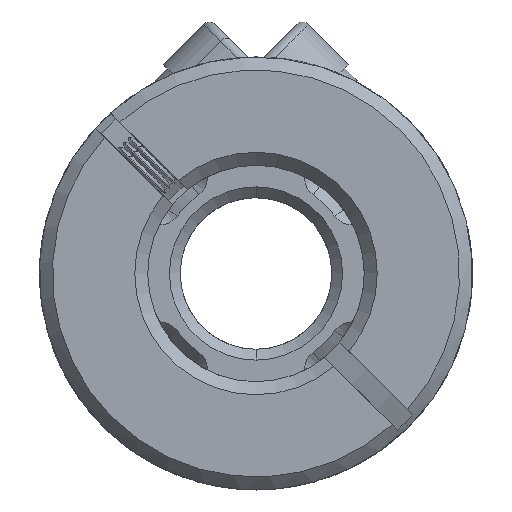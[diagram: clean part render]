
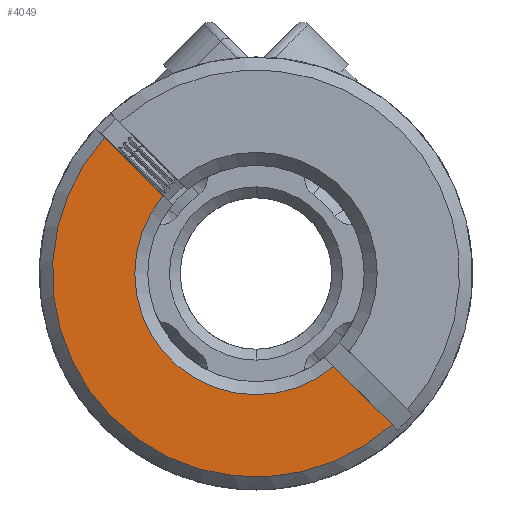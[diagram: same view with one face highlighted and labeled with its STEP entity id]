
A CAD part, front view. The second image highlights one B-rep face of the part: STEP entity #4049.
In plain terms, the highlighted planar face has unit normal (0, -1, 0).
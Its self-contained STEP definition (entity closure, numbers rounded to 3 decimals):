
#285 = ORIENTED_EDGE ( 'NONE', *, *, #12661, .T. ) ;
#709 = CARTESIAN_POINT ( 'NONE',  ( 3.59, -11.2, -4.298 ) ) ;
#901 = CARTESIAN_POINT ( 'NONE',  ( -6.991, -11.2, 6.284 ) ) ;
#1043 = CARTESIAN_POINT ( 'NONE',  ( -8.839, -11.2, 8.132 ) ) ;
#1045 = DIRECTION ( 'NONE',  ( 0., 1., 0. ) ) ;
#1263 = CIRCLE ( 'NONE', #5976, 5.6 ) ;
#1700 = AXIS2_PLACEMENT_3D ( 'NONE', #4425, #6601, #2031 ) ;
#1772 = DIRECTION ( 'NONE',  ( -0.707, 0., 0.707 ) ) ;
#1814 = CARTESIAN_POINT ( 'NONE',  ( -4.298, -11.2, 3.59 ) ) ;
#2031 = DIRECTION ( 'NONE',  ( -0.707, 0., 0.707 ) ) ;
#2158 = ORIENTED_EDGE ( 'NONE', *, *, #14307, .T. ) ;
#3591 = EDGE_CURVE ( 'NONE', #14997, #14185, #8672, .T. ) ;
#4049 = ADVANCED_FACE ( 'NONE', ( #10983 ), #6743, .T. ) ;
#4425 = CARTESIAN_POINT ( 'NONE',  ( 45.083, -11.2, 25.627 ) ) ;
#4459 = DIRECTION ( 'NONE',  ( 0., -1., 0. ) ) ;
#4472 = ORIENTED_EDGE ( 'NONE', *, *, #3591, .T. ) ;
#4736 = CIRCLE ( 'NONE', #6882, 9.4 ) ;
#4803 = LINE ( 'NONE', #12143, #14383 ) ;
#5976 = AXIS2_PLACEMENT_3D ( 'NONE', #7969, #1045, #10286 ) ;
#6601 = DIRECTION ( 'NONE',  ( 0., -1., 0. ) ) ;
#6743 = PLANE ( 'NONE',  #1700 ) ;
#6826 = DIRECTION ( 'NONE',  ( -0.707, 0., 0.707 ) ) ;
#6882 = AXIS2_PLACEMENT_3D ( 'NONE', #11363, #4459, #6826 ) ;
#7119 = VERTEX_POINT ( 'NONE', #1814 ) ;
#7193 = VECTOR ( 'NONE', #10437, 1000. ) ;
#7969 = CARTESIAN_POINT ( 'NONE',  ( 0., -11.2, 0. ) ) ;
#8592 = CARTESIAN_POINT ( 'NONE',  ( 6.284, -11.2, -6.991 ) ) ;
#8672 = LINE ( 'NONE', #1043, #7193 ) ;
#8701 = EDGE_CURVE ( 'NONE', #14185, #7119, #1263, .T. ) ;
#10286 = DIRECTION ( 'NONE',  ( -0.707, 0., 0.707 ) ) ;
#10328 = VERTEX_POINT ( 'NONE', #901 ) ;
#10437 = DIRECTION ( 'NONE',  ( -0.707, 0., 0.707 ) ) ;
#10939 = EDGE_LOOP ( 'NONE', ( #285, #2158, #4472, #13231 ) ) ;
#10983 = FACE_OUTER_BOUND ( 'NONE', #10939, .T. ) ;
#11363 = CARTESIAN_POINT ( 'NONE',  ( 0., -11.2, 0. ) ) ;
#12143 = CARTESIAN_POINT ( 'NONE',  ( 0.205, -11.2, -0.912 ) ) ;
#12661 = EDGE_CURVE ( 'NONE', #7119, #10328, #4803, .T. ) ;
#13231 = ORIENTED_EDGE ( 'NONE', *, *, #8701, .T. ) ;
#14185 = VERTEX_POINT ( 'NONE', #709 ) ;
#14307 = EDGE_CURVE ( 'NONE', #10328, #14997, #4736, .T. ) ;
#14383 = VECTOR ( 'NONE', #1772, 1000. ) ;
#14997 = VERTEX_POINT ( 'NONE', #8592 ) ;
